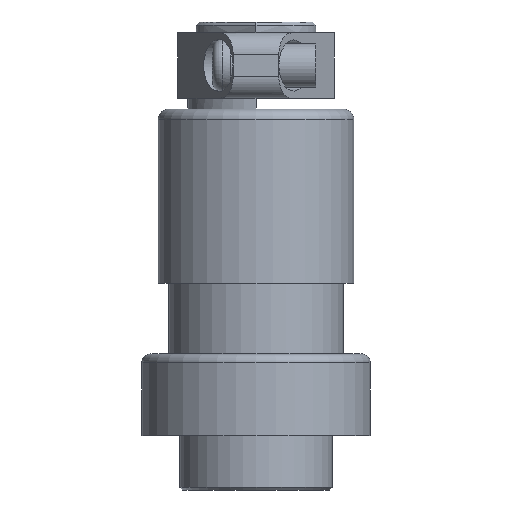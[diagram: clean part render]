
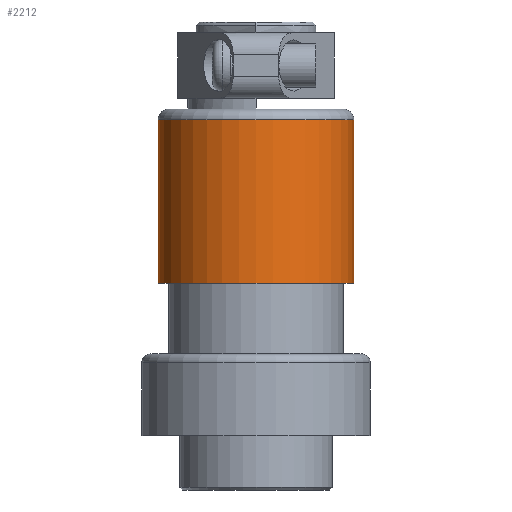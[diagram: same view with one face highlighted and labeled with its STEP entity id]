
A CAD part, front view. The second image highlights one B-rep face of the part: STEP entity #2212.
In plain terms, the highlighted cylindrical face has radius 9 mm (diameter 18 mm), a full revolution.
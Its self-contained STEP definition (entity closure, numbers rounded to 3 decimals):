
#48 = EDGE_CURVE ( 'NONE', #950, #950, #205, .T. ) ;
#111 = FACE_OUTER_BOUND ( 'NONE', #704, .T. ) ;
#168 = CARTESIAN_POINT ( 'NONE',  ( 0., 0., 34.75 ) ) ;
#205 = CIRCLE ( 'NONE', #662, 9. ) ;
#365 = DIRECTION ( 'NONE',  ( 0., 0., -1. ) ) ;
#509 = DIRECTION ( 'NONE',  ( -1., 0., 0. ) ) ;
#520 = DIRECTION ( 'NONE',  ( 1., 0., 0. ) ) ;
#611 = AXIS2_PLACEMENT_3D ( 'NONE', #1565, #1125, #520 ) ;
#662 = AXIS2_PLACEMENT_3D ( 'NONE', #168, #365, #2527 ) ;
#664 = VERTEX_POINT ( 'NONE', #1075 ) ;
#699 = CARTESIAN_POINT ( 'NONE',  ( 0., 0., 35.75 ) ) ;
#704 = EDGE_LOOP ( 'NONE', ( #1415 ) ) ;
#950 = VERTEX_POINT ( 'NONE', #2133 ) ;
#1075 = CARTESIAN_POINT ( 'NONE',  ( 9., 0., 19.75 ) ) ;
#1125 = DIRECTION ( 'NONE',  ( 0., 0., 1. ) ) ;
#1415 = ORIENTED_EDGE ( 'NONE', *, *, #2291, .T. ) ;
#1457 = EDGE_LOOP ( 'NONE', ( #2467 ) ) ;
#1487 = DIRECTION ( 'NONE',  ( 0., 0., -1. ) ) ;
#1527 = CIRCLE ( 'NONE', #611, 9. ) ;
#1565 = CARTESIAN_POINT ( 'NONE',  ( 0., 0., 19.75 ) ) ;
#1674 = FACE_OUTER_BOUND ( 'NONE', #1457, .T. ) ;
#2133 = CARTESIAN_POINT ( 'NONE',  ( 9., 0., 34.75 ) ) ;
#2212 = ADVANCED_FACE ( 'NONE', ( #1674, #111 ), #2470, .T. ) ;
#2245 = AXIS2_PLACEMENT_3D ( 'NONE', #699, #1487, #509 ) ;
#2291 = EDGE_CURVE ( 'NONE', #664, #664, #1527, .T. ) ;
#2467 = ORIENTED_EDGE ( 'NONE', *, *, #48, .T. ) ;
#2470 = CYLINDRICAL_SURFACE ( 'NONE', #2245, 9. ) ;
#2527 = DIRECTION ( 'NONE',  ( 1., 0., 0. ) ) ;
